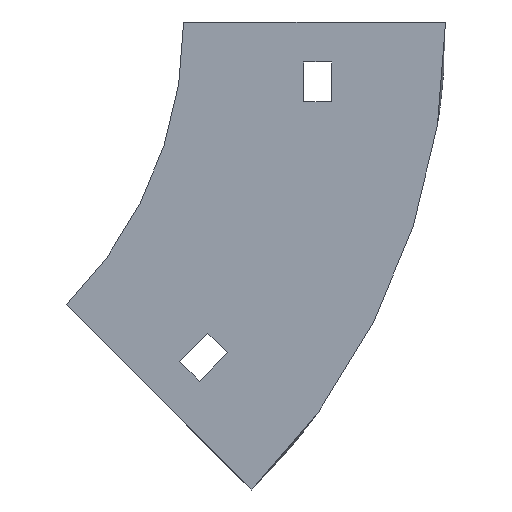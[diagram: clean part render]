
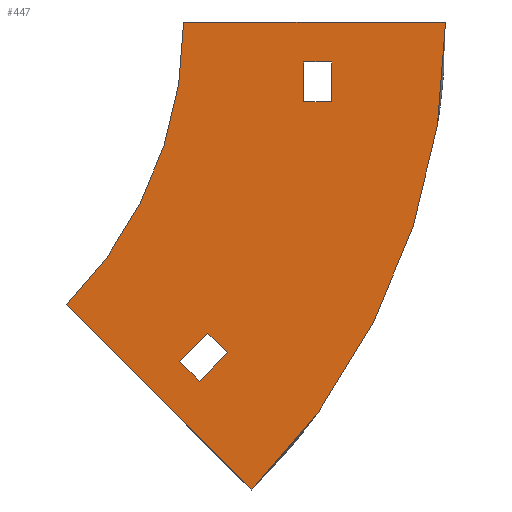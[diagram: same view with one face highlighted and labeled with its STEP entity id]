
A CAD part, left-side view. The second image highlights one B-rep face of the part: STEP entity #447.
In plain terms, the highlighted planar face has unit normal (-1, 0, 0).
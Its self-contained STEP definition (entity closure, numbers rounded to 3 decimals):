
#10 = VERTEX_POINT ( 'NONE', #698 ) ;
#11 = CARTESIAN_POINT ( 'NONE',  ( -152., 100., 0. ) ) ;
#23 = VERTEX_POINT ( 'NONE', #945 ) ;
#32 = VERTEX_POINT ( 'NONE', #846 ) ;
#37 = VERTEX_POINT ( 'NONE', #412 ) ;
#38 = FACE_BOUND ( 'NONE', #222, .T. ) ;
#40 = EDGE_CURVE ( 'NONE', #10, #97, #1122, .T. ) ;
#41 = CARTESIAN_POINT ( 'NONE',  ( -152., -3.945, -89.803 ) ) ;
#47 = DIRECTION ( 'NONE',  ( 0., -1., 0. ) ) ;
#48 = VERTEX_POINT ( 'NONE', #233 ) ;
#54 = VECTOR ( 'NONE', #254, 1000. ) ;
#97 = VERTEX_POINT ( 'NONE', #455 ) ;
#105 = CARTESIAN_POINT ( 'NONE',  ( -152., -37., -10. ) ) ;
#113 = ORIENTED_EDGE ( 'NONE', *, *, #40, .F. ) ;
#120 = CARTESIAN_POINT ( 'NONE',  ( -152., -6.066, -77.782 ) ) ;
#132 = EDGE_LOOP ( 'NONE', ( #623, #113, #1039, #374 ) ) ;
#135 = LINE ( 'NONE', #843, #746 ) ;
#141 = EDGE_LOOP ( 'NONE', ( #1030, #1083, #1026, #598 ) ) ;
#152 = AXIS2_PLACEMENT_3D ( 'NONE', #11, #537, #620 ) ;
#174 = CARTESIAN_POINT ( 'NONE',  ( -152., -30., -10. ) ) ;
#184 = EDGE_CURVE ( 'NONE', #32, #855, #759, .T. ) ;
#210 = DIRECTION ( 'NONE',  ( 0., 0.707, 0.707 ) ) ;
#212 = EDGE_CURVE ( 'NONE', #949, #23, #718, .T. ) ;
#214 = DIRECTION ( 'NONE',  ( 0., 1., 0. ) ) ;
#222 = EDGE_LOOP ( 'NONE', ( #575, #754, #932, #644 ) ) ;
#230 = VECTOR ( 'NONE', #956, 1000. ) ;
#233 = CARTESIAN_POINT ( 'NONE',  ( -152., -65.5, 0. ) ) ;
#237 = DIRECTION ( 'NONE',  ( 1., 0., 0. ) ) ;
#254 = DIRECTION ( 'NONE',  ( 0., 0.707, -0.707 ) ) ;
#284 = EDGE_CURVE ( 'NONE', #855, #48, #135, .T. ) ;
#287 = EDGE_CURVE ( 'NONE', #636, #32, #1041, .T. ) ;
#292 = CARTESIAN_POINT ( 'NONE',  ( -152., 100., 0. ) ) ;
#305 = CARTESIAN_POINT ( 'NONE',  ( -152., -11.016, -82.731 ) ) ;
#318 = DIRECTION ( 'NONE',  ( 0., 0., -1. ) ) ;
#327 = CARTESIAN_POINT ( 'NONE',  ( -152., -30., -10. ) ) ;
#332 = DIRECTION ( 'NONE',  ( 0., -0.707, -0.707 ) ) ;
#353 = VECTOR ( 'NONE', #214, 1000. ) ;
#361 = VECTOR ( 'NONE', #332, 1000. ) ;
#374 = ORIENTED_EDGE ( 'NONE', *, *, #1044, .F. ) ;
#380 = CARTESIAN_POINT ( 'NONE',  ( -152., -17.026, -117.026 ) ) ;
#402 = PLANE ( 'NONE',  #867 ) ;
#412 = CARTESIAN_POINT ( 'NONE',  ( -152., -37., -20. ) ) ;
#413 = CARTESIAN_POINT ( 'NONE',  ( -152., -30., -10. ) ) ;
#420 = VECTOR ( 'NONE', #1048, 1000. ) ;
#447 = ADVANCED_FACE ( 'NONE', ( #1119, #38, #671 ), #402, .F. ) ;
#455 = CARTESIAN_POINT ( 'NONE',  ( -152., 1.005, -84.853 ) ) ;
#497 = EDGE_CURVE ( 'NONE', #97, #712, #796, .T. ) ;
#504 = LINE ( 'NONE', #120, #651 ) ;
#537 = DIRECTION ( 'NONE',  ( -1., 0., 0. ) ) ;
#547 = DIRECTION ( 'NONE',  ( 1., 0., 0. ) ) ;
#574 = LINE ( 'NONE', #105, #1013 ) ;
#575 = ORIENTED_EDGE ( 'NONE', *, *, #803, .T. ) ;
#591 = LINE ( 'NONE', #327, #1051 ) ;
#598 = ORIENTED_EDGE ( 'NONE', *, *, #284, .F. ) ;
#599 = CARTESIAN_POINT ( 'NONE',  ( -152., 29.289, -70.711 ) ) ;
#603 = CARTESIAN_POINT ( 'NONE',  ( -152., 0., 0. ) ) ;
#612 = EDGE_CURVE ( 'NONE', #48, #636, #1127, .T. ) ;
#620 = DIRECTION ( 'NONE',  ( 0., 0., -1. ) ) ;
#623 = ORIENTED_EDGE ( 'NONE', *, *, #497, .F. ) ;
#636 = VERTEX_POINT ( 'NONE', #380 ) ;
#644 = ORIENTED_EDGE ( 'NONE', *, *, #773, .T. ) ;
#651 = VECTOR ( 'NONE', #210, 1000. ) ;
#656 = CARTESIAN_POINT ( 'NONE',  ( -152., -30., -20. ) ) ;
#671 = FACE_BOUND ( 'NONE', #132, .T. ) ;
#675 = CARTESIAN_POINT ( 'NONE',  ( -152., 1.005, -84.853 ) ) ;
#695 = CARTESIAN_POINT ( 'NONE',  ( -152., 1.005, -84.853 ) ) ;
#698 = CARTESIAN_POINT ( 'NONE',  ( -152., -6.066, -77.782 ) ) ;
#712 = VERTEX_POINT ( 'NONE', #41 ) ;
#718 = LINE ( 'NONE', #174, #1125 ) ;
#746 = VECTOR ( 'NONE', #47, 1000. ) ;
#754 = ORIENTED_EDGE ( 'NONE', *, *, #212, .T. ) ;
#759 = CIRCLE ( 'NONE', #152, 100. ) ;
#765 = DIRECTION ( 'NONE',  ( 0., 0., -1. ) ) ;
#773 = EDGE_CURVE ( 'NONE', #37, #940, #1003, .T. ) ;
#776 = EDGE_CURVE ( 'NONE', #23, #37, #574, .T. ) ;
#796 = LINE ( 'NONE', #695, #361 ) ;
#803 = EDGE_CURVE ( 'NONE', #940, #949, #591, .T. ) ;
#819 = CARTESIAN_POINT ( 'NONE',  ( -152., -30., -20. ) ) ;
#834 = AXIS2_PLACEMENT_3D ( 'NONE', #292, #547, #904 ) ;
#839 = LINE ( 'NONE', #1038, #230 ) ;
#843 = CARTESIAN_POINT ( 'NONE',  ( -152., -65.5, 0. ) ) ;
#846 = CARTESIAN_POINT ( 'NONE',  ( -152., 29.289, -70.711 ) ) ;
#855 = VERTEX_POINT ( 'NONE', #603 ) ;
#867 = AXIS2_PLACEMENT_3D ( 'NONE', #1031, #237, #765 ) ;
#892 = DIRECTION ( 'NONE',  ( 0., -1., 0. ) ) ;
#904 = DIRECTION ( 'NONE',  ( 0., 0., -1. ) ) ;
#909 = EDGE_CURVE ( 'NONE', #1149, #10, #504, .T. ) ;
#932 = ORIENTED_EDGE ( 'NONE', *, *, #776, .T. ) ;
#940 = VERTEX_POINT ( 'NONE', #819 ) ;
#945 = CARTESIAN_POINT ( 'NONE',  ( -152., -37., -10. ) ) ;
#949 = VERTEX_POINT ( 'NONE', #413 ) ;
#956 = DIRECTION ( 'NONE',  ( 0., -0.707, 0.707 ) ) ;
#1003 = LINE ( 'NONE', #656, #353 ) ;
#1013 = VECTOR ( 'NONE', #318, 1000. ) ;
#1026 = ORIENTED_EDGE ( 'NONE', *, *, #612, .F. ) ;
#1030 = ORIENTED_EDGE ( 'NONE', *, *, #184, .F. ) ;
#1031 = CARTESIAN_POINT ( 'NONE',  ( -152., 100., 0. ) ) ;
#1033 = DIRECTION ( 'NONE',  ( 0., 0., 1. ) ) ;
#1038 = CARTESIAN_POINT ( 'NONE',  ( -152., -3.945, -89.803 ) ) ;
#1039 = ORIENTED_EDGE ( 'NONE', *, *, #909, .F. ) ;
#1041 = LINE ( 'NONE', #599, #420 ) ;
#1044 = EDGE_CURVE ( 'NONE', #712, #1149, #839, .T. ) ;
#1048 = DIRECTION ( 'NONE',  ( 0., 0.707, 0.707 ) ) ;
#1051 = VECTOR ( 'NONE', #1033, 1000. ) ;
#1083 = ORIENTED_EDGE ( 'NONE', *, *, #287, .F. ) ;
#1119 = FACE_OUTER_BOUND ( 'NONE', #141, .T. ) ;
#1122 = LINE ( 'NONE', #675, #54 ) ;
#1125 = VECTOR ( 'NONE', #892, 1000. ) ;
#1127 = CIRCLE ( 'NONE', #834, 165.5 ) ;
#1149 = VERTEX_POINT ( 'NONE', #305 ) ;
